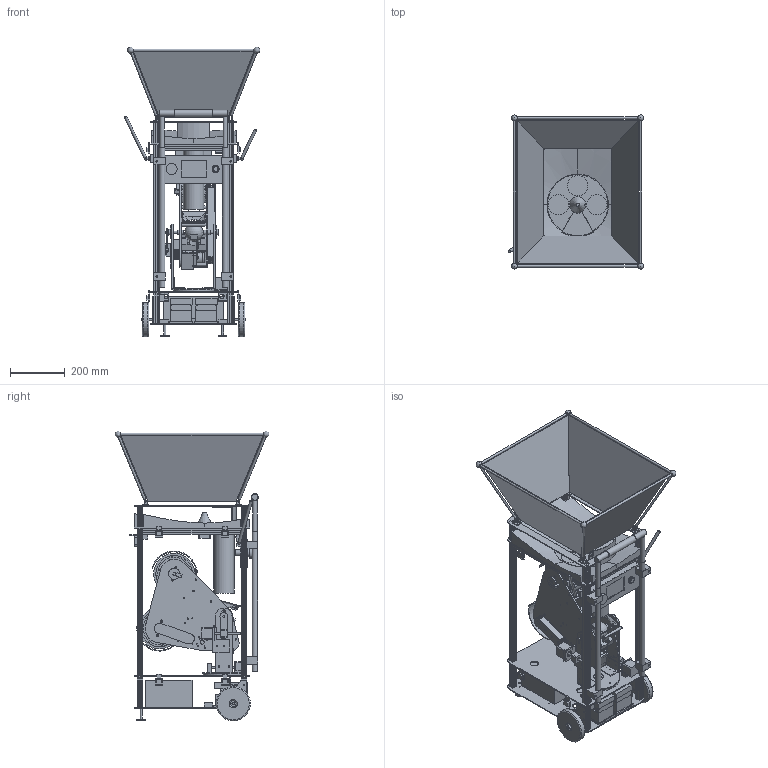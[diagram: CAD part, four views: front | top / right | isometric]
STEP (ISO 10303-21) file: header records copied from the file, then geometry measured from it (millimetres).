
FILE_DESCRIPTION(('Open CASCADE Model'),'2;1');
FILE_NAME('Open CASCADE Shape Model','2026-10-06T19:55:39',('Author'),( 'Open CASCADE'),'Open CASCADE STEP processor 7.9','Open CASCADE 7.9' ,'Unknown');
FILE_SCHEMA(('AUTOMOTIVE_DESIGN { 1 0 10303 214 1 1 1 1 }'));
Length unit declared in the file: millimetre
Products named in the file (220): lancador; andar_base; chapa_piso__1; poste_base__1; pino_centragem__1; bloco_pino__1; pino_centragem__2; bloco_pino__2; berco_bateria__1; bateria_makita__1; bateria_makita_topo__1; soquete_makita__1; berco_bateria__2; soquete_makita__2; caixa_ip65__1; placa_montagem__1; esp32_s3__1; driver_tmc2209__1; driver_tmc2209__2; driver_tmc2209__3; esc_60a__1; esc_60a__2; rele_k1__1; porta_fusiveis__1; conversor_buck__1; conversor_buck__2; conversor_buck__3; receptor_433__1; capacitor_1000uf__1; diodo_ideal__1; diodo_ideal__2; chave_eletronica__1; suporte_roda__1; roda_transporte__1; eixo_roda_transporte__1; pe_borracha__1; suporte_roda__2; roda_transporte__2; eixo_roda_transporte__2; pe_borracha__2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
Assembly tree (231 placements, depth 6):
  lancador
    andar_base
      chapa_piso__1
      poste_base__1  x4
      pino_centragem__1
      bloco_pino__1
      pino_centragem__2
      bloco_pino__2
      berco_bateria__1
      bateria_makita__1  x2
      bateria_makita_topo__1  x2
      soquete_makita__1
      berco_bateria__2
      soquete_makita__2
      caixa_ip65__1
      placa_montagem__1
      esp32_s3__1
      driver_tmc2209__1
      driver_tmc2209__2
      driver_tmc2209__3
      esc_60a__1
      esc_60a__2
      rele_k1__1
      porta_fusiveis__1
      conversor_buck__1
      conversor_buck__2
      conversor_buck__3
      receptor_433__1
      capacitor_1000uf__1
      diodo_ideal__1
      diodo_ideal__2
      chave_eletronica__1
      suporte_roda__1
      roda_transporte__1
      eixo_roda_transporte__1
      pe_borracha__1
      suporte_roda__2
      roda_transporte__2
      eixo_roda_transporte__2
      pe_borracha__2
      fecho_pressao__1
      fecho_pressao__2
      fecho_pressao__3
      fecho_pressao__4
      suporte_conectores__1
      suporte_conectores__2
    andar_lancador
      chapa_base_lancador__1
      lazy_susan__1
      poste_lancador__1  x4
      perfil_topo_lado__1
      perfil_topo_lado__2
      perfil_topo_frente__1
      perfil_topo_frente__2
      cantoneira_2020__1
      cantoneira_2020__2
      cantoneira_2020__3
      cantoneira_2020__4
      motor_giro__1
      fuso_giro__1
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Bounding box: 494.17 x 561.84 x 1056 mm (x, y, z)
Volume: 12659802.8 mm3; surface area: 5422139.4 mm2
Topology: 296 solids, 297 shells, 3454 faces, 8199 edges, 5454 vertices
Faces by surface type: plane 2684, cylinder 726, bspline 18, torus 10, cone 9, sphere 7
Full cylindrical faces by diameter (mm): 0.02 x1, 2.8 x3, 3.4 x50, 4 x12, 4.2 x16, 4.4 x12, 4.5 x120, 5 x6, 5.1 x1, 5.2 x6, 5.5 x39, 6 x4, 6.1 x1, 6.2 x5, 6.4 x4, 6.8 x2, 7 x36, 7.8 x2, 8 x28, 8.1 x2, 8.2 x12, 8.4 x4, 8.5 x2, 9.2 x1, 10 x11, 10.4 x4, 12 x14, 13 x2, 13.2 x2, 14 x4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
Entity records: 193602 total; most frequent: CARTESIAN_POINT 41127, DIRECTION 27491, LINE 16931, VECTOR 16931, ORIENTED_EDGE 14282, PCURVE 14282, DEFINITIONAL_REPRESENTATION 14282, EDGE_CURVE 7141
